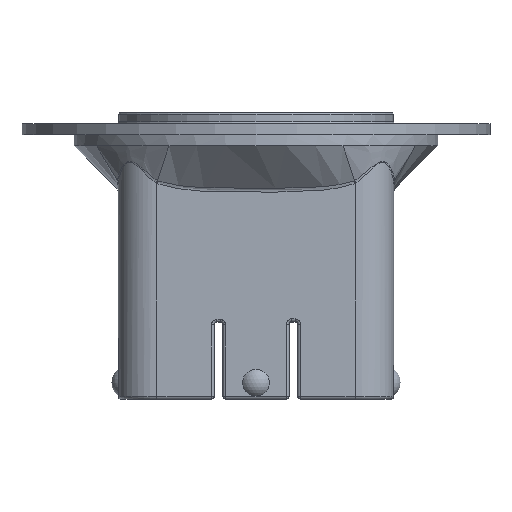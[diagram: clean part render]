
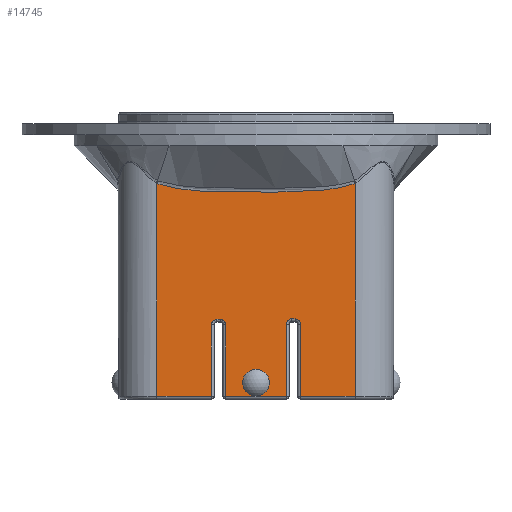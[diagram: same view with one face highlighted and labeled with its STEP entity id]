
A CAD part, left-side view. The second image highlights one B-rep face of the part: STEP entity #14745.
In plain terms, the highlighted planar face has unit normal (-1, 0, 0).
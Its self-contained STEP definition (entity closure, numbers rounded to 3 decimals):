
#118=PLANE('',#4487);
#493=VECTOR('',#2356,1.);
#494=VECTOR('',#2357,1.);
#495=VECTOR('',#2358,1.);
#496=VECTOR('',#2361,1.);
#497=VECTOR('',#2364,1.);
#498=VECTOR('',#2365,1.);
#499=VECTOR('',#2366,1.);
#500=VECTOR('',#2369,1.);
#501=VECTOR('',#2372,1.);
#502=VECTOR('',#2373,1.);
#503=VECTOR('',#2374,1.);
#1385=LINE('',#23826,#493);
#1386=LINE('',#23828,#494);
#1387=LINE('',#23830,#495);
#1388=LINE('',#23834,#496);
#1389=LINE('',#23838,#497);
#1390=LINE('',#23840,#498);
#1391=LINE('',#23842,#499);
#1392=LINE('',#23846,#500);
#1393=LINE('',#23850,#501);
#1394=LINE('',#23852,#502);
#1395=LINE('',#23854,#503);
#2355=DIRECTION('',(-1.,0.,0.));
#2356=DIRECTION('',(0.,0.,1.));
#2357=DIRECTION('',(0.,1.,0.));
#2358=DIRECTION('',(0.,0.,-1.));
#2359=DIRECTION('',(-1.,0.,0.));
#2360=DIRECTION('',(0.,0.707,0.707));
#2361=DIRECTION('',(0.,1.,0.));
#2362=DIRECTION('',(-1.,0.,0.));
#2363=DIRECTION('',(0.,-0.707,0.707));
#2364=DIRECTION('',(0.,0.,1.));
#2365=DIRECTION('',(0.,1.,0.));
#2366=DIRECTION('',(0.,0.,-1.));
#2367=DIRECTION('',(-1.,0.,0.));
#2368=DIRECTION('',(0.,0.707,0.707));
#2369=DIRECTION('',(0.,1.,0.));
#2370=DIRECTION('',(-1.,0.,0.));
#2371=DIRECTION('',(0.,-0.707,0.707));
#2372=DIRECTION('',(0.,0.,1.));
#2373=DIRECTION('',(0.,1.,0.));
#2374=DIRECTION('',(0.,0.,-1.));
#2375=DIRECTION('',(1.,0.,0.));
#2376=DIRECTION('',(0.,0.,-2.437));
#4487=AXIS2_PLACEMENT_3D('',#23825,#2355,$);
#4488=AXIS2_PLACEMENT_3D('',#23832,#2359,#2360);
#4489=AXIS2_PLACEMENT_3D('',#23836,#2362,#2363);
#4490=AXIS2_PLACEMENT_3D('',#23844,#2367,#2368);
#4491=AXIS2_PLACEMENT_3D('',#23848,#2370,#2371);
#4492=AXIS2_PLACEMENT_3D('',#23855,#2375,#2376);
#5253=CIRCLE('',#4488,1.);
#5254=CIRCLE('',#4489,1.);
#5255=CIRCLE('',#4490,1.);
#5256=CIRCLE('',#4491,1.);
#5257=CIRCLE('',#4492,2.437);
#5625=VERTEX_POINT('',#18825);
#5626=VERTEX_POINT('',#18844);
#5679=VERTEX_POINT('',#23827);
#5680=VERTEX_POINT('',#23829);
#5681=VERTEX_POINT('',#23831);
#5682=VERTEX_POINT('',#23833);
#5683=VERTEX_POINT('',#23835);
#5684=VERTEX_POINT('',#23837);
#5685=VERTEX_POINT('',#23839);
#5686=VERTEX_POINT('',#23841);
#5687=VERTEX_POINT('',#23843);
#5688=VERTEX_POINT('',#23845);
#5689=VERTEX_POINT('',#23847);
#5690=VERTEX_POINT('',#23849);
#5691=VERTEX_POINT('',#23851);
#5692=VERTEX_POINT('',#23853);
#5693=VERTEX_POINT('',#23856);
#6824=B_SPLINE_CURVE_WITH_KNOTS('',3,(#18826,#18827,#18828,#18829,#18830,
#18831,#18832,#18833,#18834,#18835,#18836,#18837,#18838,#18839,#18840,#18841,
#18842,#18843),.UNSPECIFIED.,.F.,.U.,(4,2,2,2,2,2,2,2,4),(-4.29,
-3.579,-2.872,-2.43,-2.154,
-1.878,-1.436,-0.835,-0.01),
 .UNSPECIFIED.);
#7475=EDGE_CURVE('',#5625,#5626,#6824,.T.);
#7550=EDGE_CURVE('',#5679,#5625,#1385,.T.);
#7551=EDGE_CURVE('',#5680,#5679,#1386,.T.);
#7552=EDGE_CURVE('',#5681,#5680,#1387,.T.);
#7553=EDGE_CURVE('',#5682,#5681,#5253,.T.);
#7554=EDGE_CURVE('',#5683,#5682,#1388,.T.);
#7555=EDGE_CURVE('',#5684,#5683,#5254,.T.);
#7556=EDGE_CURVE('',#5685,#5684,#1389,.T.);
#7557=EDGE_CURVE('',#5686,#5685,#1390,.T.);
#7558=EDGE_CURVE('',#5687,#5686,#1391,.T.);
#7559=EDGE_CURVE('',#5688,#5687,#5255,.T.);
#7560=EDGE_CURVE('',#5689,#5688,#1392,.T.);
#7561=EDGE_CURVE('',#5690,#5689,#5256,.T.);
#7562=EDGE_CURVE('',#5691,#5690,#1393,.T.);
#7563=EDGE_CURVE('',#5692,#5691,#1394,.T.);
#7564=EDGE_CURVE('',#5626,#5692,#1395,.T.);
#7565=EDGE_CURVE('',#5693,#5693,#5257,.T.);
#9496=ORIENTED_EDGE('',*,*,#7475,.F.);
#9497=ORIENTED_EDGE('',*,*,#7550,.F.);
#9498=ORIENTED_EDGE('',*,*,#7551,.F.);
#9499=ORIENTED_EDGE('',*,*,#7552,.F.);
#9500=ORIENTED_EDGE('',*,*,#7553,.F.);
#9501=ORIENTED_EDGE('',*,*,#7554,.F.);
#9502=ORIENTED_EDGE('',*,*,#7555,.F.);
#9503=ORIENTED_EDGE('',*,*,#7556,.F.);
#9504=ORIENTED_EDGE('',*,*,#7557,.F.);
#9505=ORIENTED_EDGE('',*,*,#7558,.F.);
#9506=ORIENTED_EDGE('',*,*,#7559,.F.);
#9507=ORIENTED_EDGE('',*,*,#7560,.F.);
#9508=ORIENTED_EDGE('',*,*,#7561,.F.);
#9509=ORIENTED_EDGE('',*,*,#7562,.F.);
#9510=ORIENTED_EDGE('',*,*,#7563,.F.);
#9511=ORIENTED_EDGE('',*,*,#7564,.F.);
#9512=ORIENTED_EDGE('',*,*,#7565,.T.);
#13079=EDGE_LOOP('',(#9496,#9497,#9498,#9499,#9500,#9501,#9502,#9503,#9504,
#9505,#9506,#9507,#9508,#9509,#9510,#9511));
#13080=EDGE_LOOP('',(#9512));
#13917=FACE_BOUND('',#13079,.T.);
#13918=FACE_BOUND('',#13080,.T.);
#14745=ADVANCED_FACE('',(#13917,#13918),#118,.T.);
#18825=CARTESIAN_POINT('',(0.,43.,39.165));
#18826=CARTESIAN_POINT('',(0.,43.,39.165));
#18827=CARTESIAN_POINT('',(0.,41.775,38.743));
#18828=CARTESIAN_POINT('',(0.,40.446,38.429));
#18829=CARTESIAN_POINT('',(0.,37.518,37.965));
#18830=CARTESIAN_POINT('',(0.,35.921,37.816));
#18831=CARTESIAN_POINT('',(0.,33.045,37.67));
#18832=CARTESIAN_POINT('',(0.,31.872,37.637));
#18833=CARTESIAN_POINT('',(0.,29.843,37.605));
#18834=CARTESIAN_POINT('',(0.,29.033,37.597));
#18835=CARTESIAN_POINT('',(0.,27.35,37.588));
#18836=CARTESIAN_POINT('',(0.,26.478,37.587));
#18837=CARTESIAN_POINT('',(0.,24.12,37.585));
#18838=CARTESIAN_POINT('',(0.,22.623,37.586));
#18839=CARTESIAN_POINT('',(0.,19.123,37.612));
#18840=CARTESIAN_POINT('',(0.,17.103,37.644));
#18841=CARTESIAN_POINT('',(0.,12.349,37.94));
#18842=CARTESIAN_POINT('',(0.,9.599,38.268));
#18843=CARTESIAN_POINT('',(0.,7.,39.165));
#18844=CARTESIAN_POINT('',(0.,7.,39.165));
#23825=CARTESIAN_POINT('',(0.,25.,0.));
#23826=CARTESIAN_POINT('',(0.,43.,0.));
#23827=CARTESIAN_POINT('',(0.,43.,0.5));
#23828=CARTESIAN_POINT('',(0.,25.,0.5));
#23829=CARTESIAN_POINT('',(0.,33.087,0.5));
#23830=CARTESIAN_POINT('',(0.,33.087,3.5));
#23831=CARTESIAN_POINT('',(0.,33.087,13.5));
#23832=CARTESIAN_POINT('',(0.,32.087,13.5));
#23833=CARTESIAN_POINT('',(0.,32.087,14.5));
#23834=CARTESIAN_POINT('',(0.,28.397,14.5));
#23835=CARTESIAN_POINT('',(0.,31.5,14.5));
#23836=CARTESIAN_POINT('',(0.,31.5,13.5));
#23837=CARTESIAN_POINT('',(0.,30.5,13.5));
#23838=CARTESIAN_POINT('',(0.,30.5,3.5));
#23839=CARTESIAN_POINT('',(0.,30.5,0.5));
#23840=CARTESIAN_POINT('',(0.,25.,0.5));
#23841=CARTESIAN_POINT('',(0.,19.5,0.5));
#23842=CARTESIAN_POINT('',(0.,19.5,3.5));
#23843=CARTESIAN_POINT('',(0.,19.5,13.604));
#23844=CARTESIAN_POINT('',(0.,18.5,13.604));
#23845=CARTESIAN_POINT('',(0.,18.5,14.604));
#23846=CARTESIAN_POINT('',(0.,21.603,14.604));
#23847=CARTESIAN_POINT('',(0.,17.912,14.604));
#23848=CARTESIAN_POINT('',(0.,17.912,13.604));
#23849=CARTESIAN_POINT('',(0.,16.912,13.604));
#23850=CARTESIAN_POINT('',(0.,16.912,3.5));
#23851=CARTESIAN_POINT('',(0.,16.912,0.5));
#23852=CARTESIAN_POINT('',(0.,25.,0.5));
#23853=CARTESIAN_POINT('',(0.,7.,0.5));
#23854=CARTESIAN_POINT('',(0.,7.,0.));
#23855=CARTESIAN_POINT('',(0.,25.,3.));
#23856=CARTESIAN_POINT('',(0.,25.,5.437));
